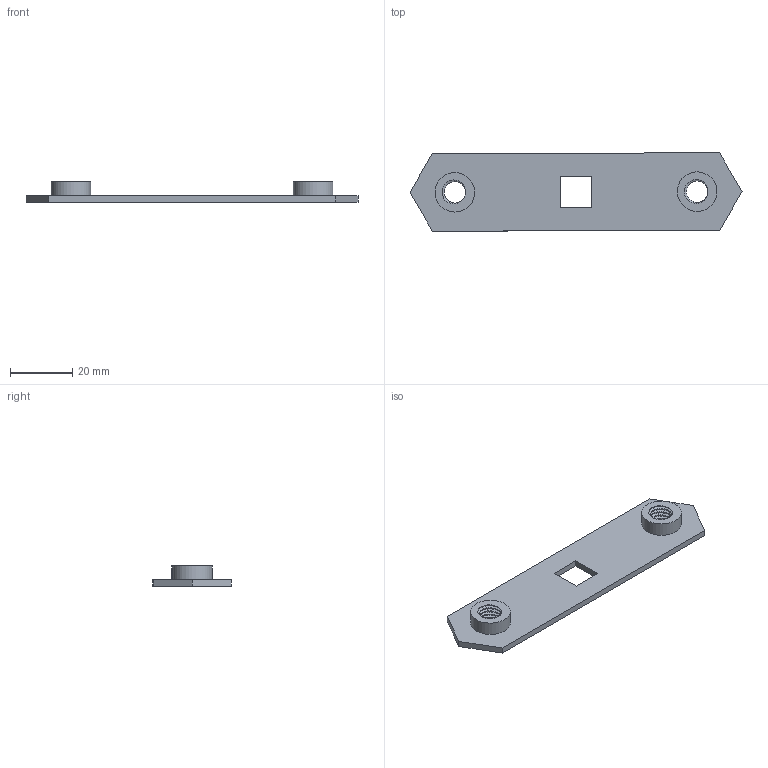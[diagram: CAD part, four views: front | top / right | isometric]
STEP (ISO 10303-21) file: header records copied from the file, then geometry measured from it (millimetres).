
FILE_DESCRIPTION(/* description */ (''),/* implementation_level */ '2;1');
FILE_NAME(/* name */ 'D:/Dokumenty/3D/Luke''s 3D/Projects/Spool winder v3/STEP/Spool adapter.step',/* time_stamp */ '2021-11-14T12:14:50+01:00',/* author */ (''),/* organization */ (''),/* preprocessor_version */ 'ST-DEVELOPER v18.1',/* originating_system */ 'Autodesk Translation Framework v10.10.0.1391',/* authorisation */ '');
FILE_SCHEMA (('AUTOMOTIVE_DESIGN { 1 0 10303 214 3 1 1 }'));
Length unit declared in the file: millimetre
Products named in the file (3): Spool winder 2; Center; Spool adpater
Assembly tree (2 placements, depth 3):
  Spool winder 2
    Center
      Spool adpater
Bounding box: 106.87 x 25.22 x 6.5 mm (x, y, z)
Volume: 5335.6 mm3; surface area: 6006.7 mm2
Topology: 1 solids, 1 shells, 46 faces, 126 edges, 84 vertices
Faces by surface type: cylinder 28, plane 14, bspline 4
Full cylindrical faces by diameter (mm): 6.979 x8, 8.17 x10, 12.75 x2
Entity records: 4118 total; most frequent: CARTESIAN_POINT 2971, ORIENTED_EDGE 252, DIRECTION 176, EDGE_CURVE 126, VERTEX_POINT 84, AXIS2_PLACEMENT_3D 61, B_SPLINE_CURVE_WITH_KNOTS 58, EDGE_LOOP 54
